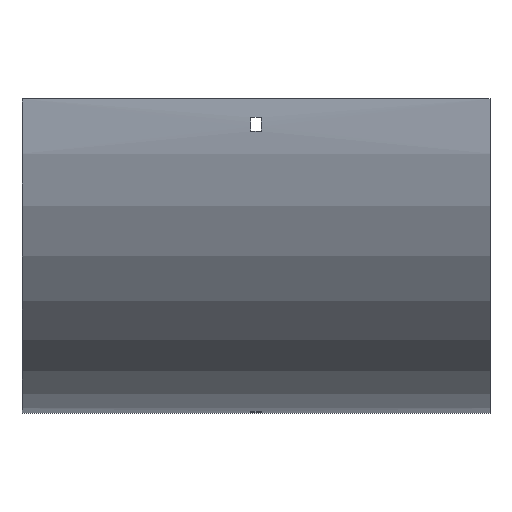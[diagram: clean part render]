
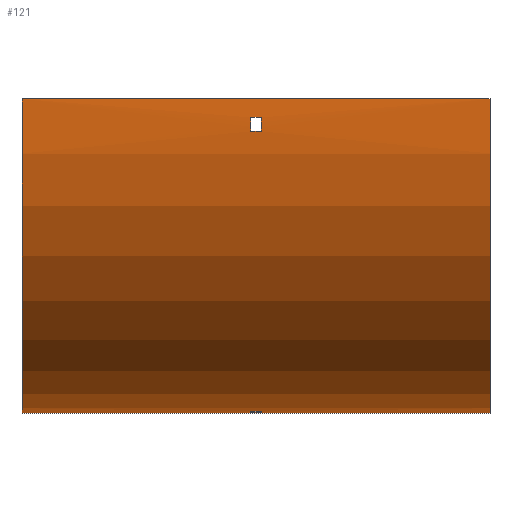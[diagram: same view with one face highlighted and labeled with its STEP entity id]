
A CAD part, front view. The second image highlights one B-rep face of the part: STEP entity #121.
In plain terms, the highlighted cylindrical face has radius 204 mm (diameter 408 mm), a partial arc.
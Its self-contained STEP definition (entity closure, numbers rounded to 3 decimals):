
#4 = AXIS2_PLACEMENT_3D ( 'NONE', #1553, #1198, #1066 ) ;
#6 = CIRCLE ( 'NONE', #224, 204. ) ;
#25 = EDGE_CURVE ( 'NONE', #172, #130, #755, .T. ) ;
#28 = DIRECTION ( 'NONE',  ( 1., 0., 0. ) ) ;
#40 = CARTESIAN_POINT ( 'NONE',  ( 152., 100., 0. ) ) ;
#51 = DIRECTION ( 'NONE',  ( 1., 0., 0. ) ) ;
#73 = CARTESIAN_POINT ( 'NONE',  ( 152., 100., -204. ) ) ;
#101 = VERTEX_POINT ( 'NONE', #709 ) ;
#103 = ORIENTED_EDGE ( 'NONE', *, *, #25, .T. ) ;
#121 = ADVANCED_FACE ( 'NONE', ( #306, #289, #1207 ), #1088, .T. ) ;
#130 = VERTEX_POINT ( 'NONE', #953 ) ;
#150 = EDGE_CURVE ( 'NONE', #411, #769, #768, .T. ) ;
#155 = CARTESIAN_POINT ( 'NONE',  ( -152., 100., 0. ) ) ;
#158 = DIRECTION ( 'NONE',  ( 0., 0., -1. ) ) ;
#166 = CARTESIAN_POINT ( 'NONE',  ( 152., 100., 0. ) ) ;
#172 = VERTEX_POINT ( 'NONE', #753 ) ;
#183 = ORIENTED_EDGE ( 'NONE', *, *, #762, .T. ) ;
#202 = EDGE_CURVE ( 'NONE', #130, #101, #1283, .T. ) ;
#207 = DIRECTION ( 'NONE',  ( -1., 0., 0. ) ) ;
#211 = ORIENTED_EDGE ( 'NONE', *, *, #202, .T. ) ;
#214 = AXIS2_PLACEMENT_3D ( 'NONE', #40, #1349, #433 ) ;
#224 = AXIS2_PLACEMENT_3D ( 'NONE', #720, #378, #1246 ) ;
#239 = LINE ( 'NONE', #632, #1133 ) ;
#242 = CARTESIAN_POINT ( 'NONE',  ( 3.25, 88., -203.647 ) ) ;
#289 = FACE_BOUND ( 'NONE', #682, .T. ) ;
#303 = CARTESIAN_POINT ( 'NONE',  ( -3.25, 88., -203.647 ) ) ;
#306 = FACE_OUTER_BOUND ( 'NONE', #955, .T. ) ;
#309 = ORIENTED_EDGE ( 'NONE', *, *, #1085, .T. ) ;
#317 = EDGE_CURVE ( 'NONE', #769, #1473, #401, .T. ) ;
#332 = ORIENTED_EDGE ( 'NONE', *, *, #1048, .F. ) ;
#357 = DIRECTION ( 'NONE',  ( 0., 0., -1. ) ) ;
#371 = DIRECTION ( 'NONE',  ( 1., 0., 0. ) ) ;
#378 = DIRECTION ( 'NONE',  ( -1., 0., 0. ) ) ;
#386 = AXIS2_PLACEMENT_3D ( 'NONE', #155, #28, #928 ) ;
#387 = DIRECTION ( 'NONE',  ( 0., 0., 1. ) ) ;
#388 = DIRECTION ( 'NONE',  ( -1., 0., 0. ) ) ;
#401 = LINE ( 'NONE', #637, #1215 ) ;
#411 = VERTEX_POINT ( 'NONE', #1596 ) ;
#432 = EDGE_CURVE ( 'NONE', #1049, #1473, #1117, .T. ) ;
#433 = DIRECTION ( 'NONE',  ( 0., 0., 1. ) ) ;
#463 = DIRECTION ( 'NONE',  ( 1., 0., 0. ) ) ;
#484 = VERTEX_POINT ( 'NONE', #303 ) ;
#518 = CARTESIAN_POINT ( 'NONE',  ( -3.25, 100., 0. ) ) ;
#520 = CARTESIAN_POINT ( 'NONE',  ( -3.25, 79., -202.916 ) ) ;
#525 = DIRECTION ( 'NONE',  ( -1., 0., 0. ) ) ;
#528 = VECTOR ( 'NONE', #388, 1000. ) ;
#546 = VECTOR ( 'NONE', #1061, 1000. ) ;
#564 = VECTOR ( 'NONE', #371, 1000. ) ;
#593 = CARTESIAN_POINT ( 'NONE',  ( 3.25, 100., 0. ) ) ;
#598 = CARTESIAN_POINT ( 'NONE',  ( 152., -103.647, -12. ) ) ;
#632 = CARTESIAN_POINT ( 'NONE',  ( 152., 79., -202.916 ) ) ;
#637 = CARTESIAN_POINT ( 'NONE',  ( 152., 100., -204. ) ) ;
#663 = ORIENTED_EDGE ( 'NONE', *, *, #317, .F. ) ;
#671 = ORIENTED_EDGE ( 'NONE', *, *, #1657, .F. ) ;
#682 = EDGE_LOOP ( 'NONE', ( #309, #103, #211, #183 ) ) ;
#683 = AXIS2_PLACEMENT_3D ( 'NONE', #518, #1561, #387 ) ;
#709 = CARTESIAN_POINT ( 'NONE',  ( 3.25, -103.647, -12. ) ) ;
#720 = CARTESIAN_POINT ( 'NONE',  ( 3.25, 100., 0. ) ) ;
#753 = CARTESIAN_POINT ( 'NONE',  ( -3.25, -102.916, -21. ) ) ;
#755 = CIRCLE ( 'NONE', #683, 204. ) ;
#762 = EDGE_CURVE ( 'NONE', #101, #1265, #1282, .T. ) ;
#768 = CIRCLE ( 'NONE', #1434, 204. ) ;
#769 = VERTEX_POINT ( 'NONE', #73 ) ;
#855 = ORIENTED_EDGE ( 'NONE', *, *, #432, .T. ) ;
#860 = EDGE_CURVE ( 'NONE', #1186, #484, #1146, .T. ) ;
#922 = CARTESIAN_POINT ( 'NONE',  ( 152., -104., 0. ) ) ;
#928 = DIRECTION ( 'NONE',  ( 0., 0., -1. ) ) ;
#935 = LINE ( 'NONE', #922, #546 ) ;
#953 = CARTESIAN_POINT ( 'NONE',  ( -3.25, -103.647, -12. ) ) ;
#955 = EDGE_LOOP ( 'NONE', ( #855, #663, #1441, #1665 ) ) ;
#964 = VERTEX_POINT ( 'NONE', #242 ) ;
#1048 = EDGE_CURVE ( 'NONE', #964, #1327, #6, .T. ) ;
#1049 = VERTEX_POINT ( 'NONE', #1537 ) ;
#1061 = DIRECTION ( 'NONE',  ( -1., 0., 0. ) ) ;
#1062 = CARTESIAN_POINT ( 'NONE',  ( 152., -102.916, -21. ) ) ;
#1066 = DIRECTION ( 'NONE',  ( 0., 1., 0. ) ) ;
#1069 = CARTESIAN_POINT ( 'NONE',  ( 152., 88., -203.647 ) ) ;
#1085 = EDGE_CURVE ( 'NONE', #1265, #172, #1442, .T. ) ;
#1088 = CYLINDRICAL_SURFACE ( 'NONE', #214, 204. ) ;
#1116 = AXIS2_PLACEMENT_3D ( 'NONE', #593, #463, #357 ) ;
#1117 = CIRCLE ( 'NONE', #386, 204. ) ;
#1133 = VECTOR ( 'NONE', #207, 1000. ) ;
#1146 = CIRCLE ( 'NONE', #4, 204. ) ;
#1185 = ORIENTED_EDGE ( 'NONE', *, *, #1467, .F. ) ;
#1186 = VERTEX_POINT ( 'NONE', #520 ) ;
#1198 = DIRECTION ( 'NONE',  ( 1., 0., 0. ) ) ;
#1207 = FACE_BOUND ( 'NONE', #1691, .T. ) ;
#1215 = VECTOR ( 'NONE', #525, 1000. ) ;
#1243 = CARTESIAN_POINT ( 'NONE',  ( -152., 100., -204. ) ) ;
#1246 = DIRECTION ( 'NONE',  ( 0., 0., 1. ) ) ;
#1265 = VERTEX_POINT ( 'NONE', #1333 ) ;
#1282 = CIRCLE ( 'NONE', #1116, 204. ) ;
#1283 = LINE ( 'NONE', #598, #564 ) ;
#1316 = ORIENTED_EDGE ( 'NONE', *, *, #860, .F. ) ;
#1327 = VERTEX_POINT ( 'NONE', #1616 ) ;
#1333 = CARTESIAN_POINT ( 'NONE',  ( 3.25, -102.916, -21. ) ) ;
#1341 = LINE ( 'NONE', #1069, #1549 ) ;
#1349 = DIRECTION ( 'NONE',  ( -1., 0., 0. ) ) ;
#1434 = AXIS2_PLACEMENT_3D ( 'NONE', #166, #1599, #158 ) ;
#1441 = ORIENTED_EDGE ( 'NONE', *, *, #150, .F. ) ;
#1442 = LINE ( 'NONE', #1062, #528 ) ;
#1467 = EDGE_CURVE ( 'NONE', #1327, #1186, #239, .T. ) ;
#1473 = VERTEX_POINT ( 'NONE', #1243 ) ;
#1537 = CARTESIAN_POINT ( 'NONE',  ( -152., -104., 0. ) ) ;
#1539 = EDGE_CURVE ( 'NONE', #411, #1049, #935, .T. ) ;
#1549 = VECTOR ( 'NONE', #51, 1000. ) ;
#1553 = CARTESIAN_POINT ( 'NONE',  ( -3.25, 100., 0. ) ) ;
#1561 = DIRECTION ( 'NONE',  ( -1., 0., 0. ) ) ;
#1596 = CARTESIAN_POINT ( 'NONE',  ( 152., -104., 0. ) ) ;
#1599 = DIRECTION ( 'NONE',  ( 1., 0., 0. ) ) ;
#1616 = CARTESIAN_POINT ( 'NONE',  ( 3.25, 79., -202.916 ) ) ;
#1657 = EDGE_CURVE ( 'NONE', #484, #964, #1341, .T. ) ;
#1665 = ORIENTED_EDGE ( 'NONE', *, *, #1539, .T. ) ;
#1691 = EDGE_LOOP ( 'NONE', ( #1316, #1185, #332, #671 ) ) ;
